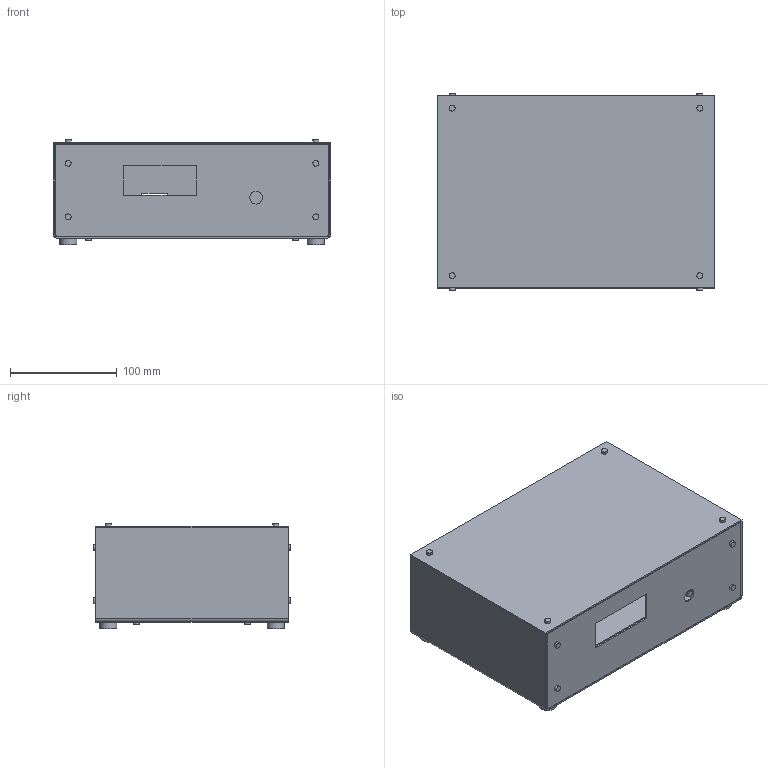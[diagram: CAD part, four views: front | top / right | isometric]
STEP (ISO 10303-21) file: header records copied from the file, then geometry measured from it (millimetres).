
FILE_DESCRIPTION(('Open CASCADE Model'),'2;1');
FILE_NAME('Open CASCADE Shape Model','2026-10-28T07:21:43',('Author'),( 'Open CASCADE'),'Open CASCADE STEP processor 7.8','Open CASCADE 7.8' ,'Unknown');
FILE_SCHEMA(('AUTOMOTIVE_DESIGN { 1 0 10303 214 1 1 1 1 }'));
Length unit declared in the file: millimetre
Products named in the file (50): instrument-enclosure-wide; u-shell; front-panel; rear-panel; lid; electronics-tray; corner-post-1; corner-post-2; corner-post-3; corner-post-4; tray-spacer-1; tray-spacer-2; tray-spacer-3; tray-spacer-4; pcb-spacer-1; pcb-spacer-2; pcb-spacer-3; pcb-spacer-4; lid-screw-1; base-screw-1; panel-screw-1-1; panel-screw-1-2; lid-screw-2; base-screw-2; panel-screw-2-1; panel-screw-2-2; lid-screw-3; base-screw-3; panel-screw-3-1; panel-screw-3-2; lid-screw-4; base-screw-4; panel-screw-4-1; panel-screw-4-2; tray-screw-1; tray-base-screw-1; tray-screw-2; tray-base-screw-2; tray-screw-3; tray-base-screw-3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
Assembly tree (49 placements, depth 2):
  instrument-enclosure-wide
    u-shell
    front-panel
    rear-panel
    lid
    electronics-tray
    corner-post-1
    corner-post-2
    corner-post-3
    corner-post-4
    tray-spacer-1
    tray-spacer-2
    tray-spacer-3
    tray-spacer-4
    pcb-spacer-1
    pcb-spacer-2
    pcb-spacer-3
    pcb-spacer-4
    lid-screw-1
    base-screw-1
    panel-screw-1-1
    panel-screw-1-2
    lid-screw-2
    base-screw-2
    panel-screw-2-1
    panel-screw-2-2
    lid-screw-3
    base-screw-3
    panel-screw-3-1
    panel-screw-3-2
    lid-screw-4
    base-screw-4
    panel-screw-4-1
    panel-screw-4-2
    tray-screw-1
    tray-base-screw-1
    tray-screw-2
    tray-base-screw-2
    tray-screw-3
    tray-base-screw-3
    tray-screw-4
    tray-base-screw-4
    pcb-spacer-screw-1
    pcb-spacer-screw-2
    pcb-spacer-screw-3
    pcb-spacer-screw-4
    foot-1
    foot-2
    foot-3
    foot-4
Bounding box: 260 x 185 x 98.5 mm (x, y, z)
Volume: 433959.5 mm3; surface area: 431813 mm2
Topology: 49 solids, 49 shells, 324 faces, 546 edges, 364 vertices
Faces by surface type: plane 190, cylinder 134
Full cylindrical faces by diameter (mm): 3 x52, 3.4 x28, 5.5 x28, 6 x12, 12 x1, 16 x5
Entity records: 16342 total; most frequent: CARTESIAN_POINT 2816, DIRECTION 2554, ORIENTED_EDGE 1092, PCURVE 1092, DEFINITIONAL_REPRESENTATION 1092, LINE 1070, VECTOR 1070, AXIS2_PLACEMENT_3D 642
